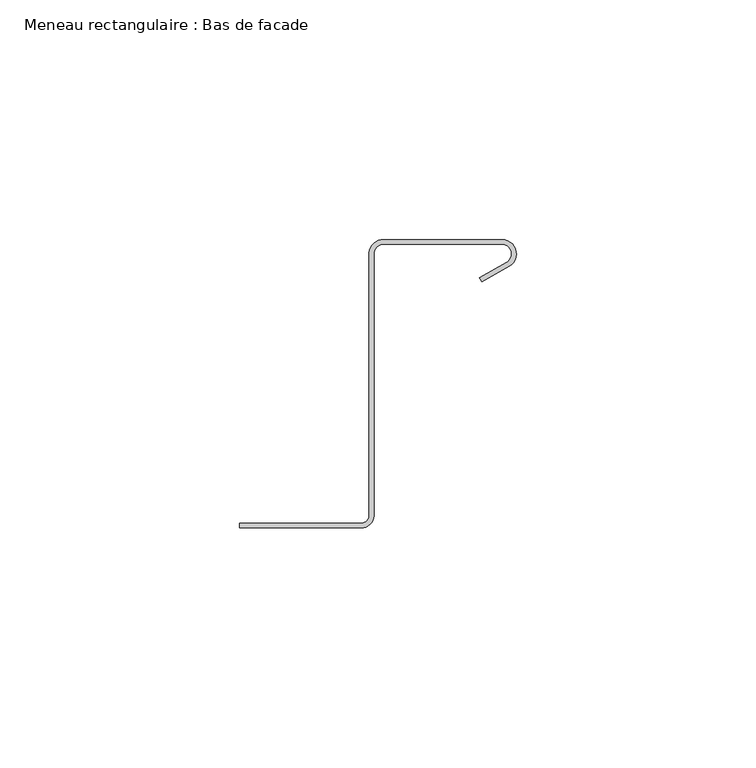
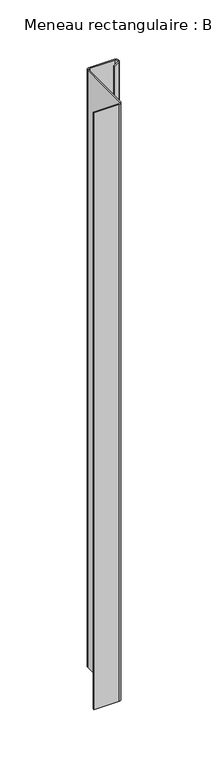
"""IFC4 building model written with IfcOpenShell, lengths in millimetres: member geometry, Meneau rectangulaire : Bas de facade."""

from ifc_helpers import new_model, si_unit, point, frame, frame_2d, origin, place, context, project, spatial, polyline, circle_curve, trimmed, segment, composite_curve, outline, extrude, source, transform, mapped, element, save


def meneau_rectangulaire_bas_de_facade_a9f17a1e(model_context):
    return source(origin(), model_context, "Body", "SweptSolid", [
        extrude(outline(composite_curve([segment(polyline([(-32.4584179, -2.9588923), (-57.8548383, -2.9588923), (-57.8548383, -1.9588923), (-32.4584179, -1.9588923)]), True, "CONTINUOUS"), segment(trimmed(circle_curve(frame_2d((-32.4584179, -0.2088923)), 1.75), [point((-32.4584179, -1.9588923))], [point((-30.7239521, -0.4415475))], True, "CARTESIAN"), True, "CONTINUOUS"), segment(polyline([(-30.7239521, -0.4415475), (-30.7239521, 54.522067)]), True, "CONTINUOUS"), segment(trimmed(circle_curve(frame_2d((-27.735368, 54.2605998)), 3.0), [point((-30.7239521, 54.522067))], [point((-27.735368, 57.2605998))], False, "CARTESIAN"), True, "CONTINUOUS"), segment(polyline([(-27.735368, 57.2605998), (-3.0, 57.2605998)]), True, "CONTINUOUS"), segment(trimmed(circle_curve(frame_2d((-3.0, 54.2605998)), 3.0), [point((-3.0, 57.2605998))], [point((-1.5, 51.6625235))], False, "CARTESIAN"), True, "CONTINUOUS"), segment(polyline([(-1.5, 51.6625235), (-7.1638061, 48.3925235), (-7.6638061, 49.258549), (-2.0, 52.528549)]), True, "CONTINUOUS"), segment(trimmed(circle_curve(frame_2d((-3.0, 54.2605998)), 2.0), [point((-2.0, 52.528549))], [point((-3.0, 56.2605998))], True, "CARTESIAN"), True, "CONTINUOUS"), segment(polyline([(-3.0, 56.2605998), (-27.735368, 56.2605998)]), True, "CONTINUOUS"), segment(trimmed(circle_curve(frame_2d((-27.735368, 54.2605998)), 2.0), [point((-27.735368, 56.2605998))], [point((-29.7143802, 54.5495817))], True, "CARTESIAN"), True, "CONTINUOUS"), segment(polyline([(-29.7143802, 54.5495817), (-29.7143802, -0.3898824)]), True, "CONTINUOUS"), segment(trimmed(circle_curve(frame_2d((-32.4584179, -0.2088923)), 2.75), [point((-29.7143802, -0.3898824))], [point((-32.4584179, -2.9588923))], False, "CARTESIAN"), True, "CONTINUOUS")], self_intersect=False)), frame((0.0, 0.0, -623.0), z_axis=(0.0, 0.0, 1.0), x_axis=(1.0, 0.0, 0.0)), (0.0, 0.0, 1.0), 623.0),
    ])


if __name__ == "__main__":
    model = new_model("IFC4")
    model_context = context("Model", 3, world=origin())
    ifc_project = project(units=[si_unit("LENGTHUNIT", "METRE", prefix="MILLI")], contexts=[model_context])
    site = spatial("IfcSite", under=ifc_project)
    building = spatial("IfcBuilding", under=site)
    placement = place(None, origin())
    meneau_rectangulaire_bas_de_facade_shape = meneau_rectangulaire_bas_de_facade_a9f17a1e(model_context)
    element("IfcMember", 1, ObjectType="Meneau rectangulaire : Bas de facade", at=placement, inside=building, context=model_context, shape_type="MappedRepresentation", body=[
        mapped(meneau_rectangulaire_bas_de_facade_shape, transform((0.0, 0.0, 0.0), x_axis=(1.0, 0.0, 0.0), y_axis=(0.0, 1.0, 0.0), z_axis=(0.0, 0.0, 1.0))),
    ])
    save(model, "model.ifc")
